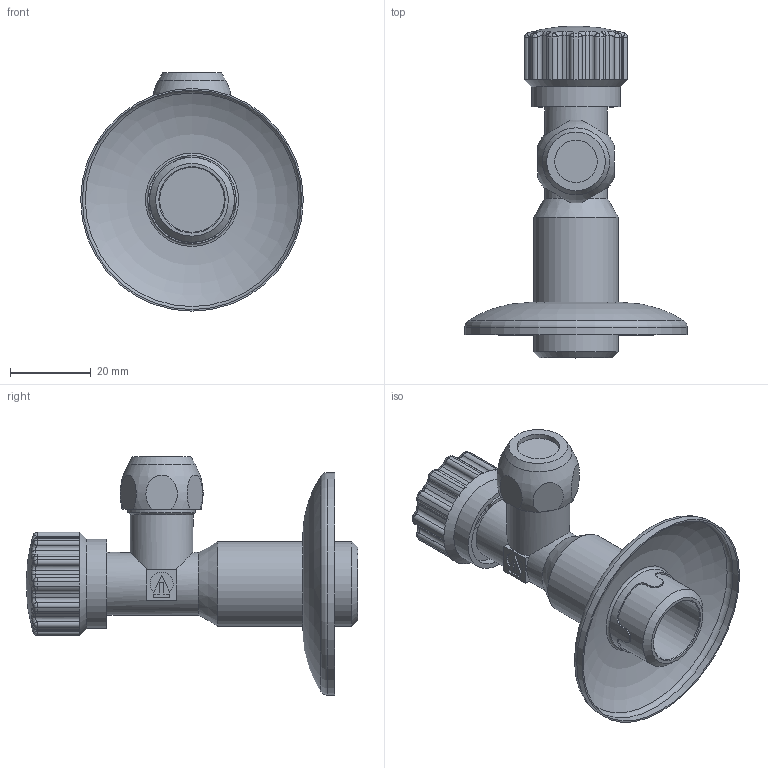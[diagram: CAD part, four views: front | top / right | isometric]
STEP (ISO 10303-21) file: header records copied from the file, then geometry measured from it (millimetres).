
FILE_DESCRIPTION(('STEP AP203'), '1');
FILE_NAME('VT.281.N.0410', '', ('UNSPECIFIED'), ('UNSPECIFIED'), 'C3D Converter', 'C3D Toolkit', '');
FILE_SCHEMA(('CONFIG_CONTROL_DESIGN'));
Length unit declared in the file: millimetre
Products named in the file (1): ВР.493711.001.000 СБ
Bounding box: 55 x 82 x 58.87 mm (x, y, z)
Volume: 25305.2 mm3; surface area: 15715.4 mm2
Topology: 2 solids, 2 shells, 309 faces, 764 edges, 439 vertices
Faces by surface type: cylinder 103, plane 94, bspline 72, torus 31, cone 8, sphere 1
Full cylindrical faces by diameter (mm): 10.5 x1, 15.5 x2, 16 x1, 16.662 x1, 19.5 x1, 20.955 x1, 21 x1, 21.8 x1, 22 x1, 54.2 x1, 55 x1
Entity records: 13917 total; most frequent: CARTESIAN_POINT 7294, ORIENTED_EDGE 1422, DIRECTION 1288, EDGE_CURVE 711, AXIS2_PLACEMENT_3D 519, VERTEX_POINT 438, EDGE_LOOP 343, ADVANCED_FACE 309
